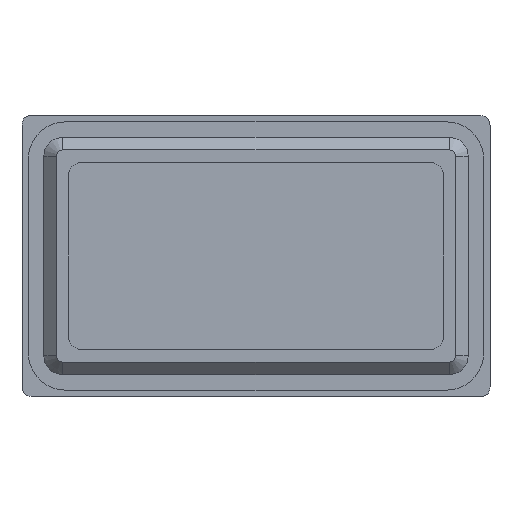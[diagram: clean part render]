
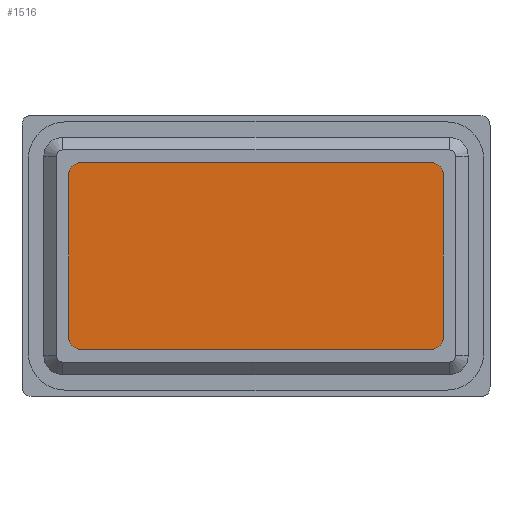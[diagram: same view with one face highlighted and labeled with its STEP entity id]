
A CAD part, front view. The second image highlights one B-rep face of the part: STEP entity #1516.
In plain terms, the highlighted planar face has unit normal (0, -1, 0).
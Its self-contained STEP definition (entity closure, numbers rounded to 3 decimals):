
#122=CIRCLE('',#1662,2.);
#123=CIRCLE('',#1665,2.);
#124=CIRCLE('',#1668,2.);
#125=CIRCLE('',#1671,2.);
#210=FACE_OUTER_BOUND('',#299,.T.);
#299=EDGE_LOOP('',(#1344,#1345,#1346,#1347,#1348,#1349,#1350,#1351));
#441=LINE('',#2553,#586);
#444=LINE('',#2561,#589);
#447=LINE('',#2569,#592);
#449=LINE('',#2575,#594);
#586=VECTOR('',#2100,56.);
#589=VECTOR('',#2109,26.);
#592=VECTOR('',#2118,26.);
#594=VECTOR('',#2126,56.);
#729=VERTEX_POINT('',#2545);
#730=VERTEX_POINT('',#2546);
#731=VERTEX_POINT('',#2551);
#732=VERTEX_POINT('',#2555);
#733=VERTEX_POINT('',#2559);
#734=VERTEX_POINT('',#2563);
#735=VERTEX_POINT('',#2564);
#736=VERTEX_POINT('',#2571);
#938=EDGE_CURVE('',#729,#730,#122,.T.);
#942=EDGE_CURVE('',#730,#731,#441,.T.);
#943=EDGE_CURVE('',#731,#732,#123,.T.);
#946=EDGE_CURVE('',#732,#733,#444,.T.);
#947=EDGE_CURVE('',#734,#735,#124,.T.);
#950=EDGE_CURVE('',#735,#729,#447,.T.);
#951=EDGE_CURVE('',#733,#736,#125,.T.);
#953=EDGE_CURVE('',#736,#734,#449,.T.);
#1344=ORIENTED_EDGE('',*,*,#938,.T.);
#1345=ORIENTED_EDGE('',*,*,#942,.T.);
#1346=ORIENTED_EDGE('',*,*,#943,.T.);
#1347=ORIENTED_EDGE('',*,*,#946,.T.);
#1348=ORIENTED_EDGE('',*,*,#951,.T.);
#1349=ORIENTED_EDGE('',*,*,#953,.T.);
#1350=ORIENTED_EDGE('',*,*,#947,.T.);
#1351=ORIENTED_EDGE('',*,*,#950,.T.);
#1432=PLANE('',#1674);
#1516=ADVANCED_FACE('',(#210),#1432,.F.);
#1662=AXIS2_PLACEMENT_3D('',#2547,#2093,#2094);
#1665=AXIS2_PLACEMENT_3D('',#2556,#2103,#2104);
#1668=AXIS2_PLACEMENT_3D('',#2565,#2112,#2113);
#1671=AXIS2_PLACEMENT_3D('',#2572,#2121,#2122);
#1674=AXIS2_PLACEMENT_3D('',#2577,#2129,#2130);
#2093=DIRECTION('center_axis',(0.,-1.,0.));
#2094=DIRECTION('ref_axis',(0.707,0.,0.707));
#2100=DIRECTION('',(-1.,0.,0.));
#2103=DIRECTION('center_axis',(0.,-1.,0.));
#2104=DIRECTION('ref_axis',(-0.707,0.,0.707));
#2109=DIRECTION('',(0.,0.,-1.));
#2112=DIRECTION('center_axis',(0.,-1.,0.));
#2113=DIRECTION('ref_axis',(0.707,0.,-0.707));
#2118=DIRECTION('',(0.,0.,1.));
#2121=DIRECTION('center_axis',(0.,-1.,0.));
#2122=DIRECTION('ref_axis',(-0.707,0.,-0.707));
#2126=DIRECTION('',(1.,0.,0.));
#2129=DIRECTION('center_axis',(0.,1.,0.));
#2130=DIRECTION('ref_axis',(0.,0.,1.));
#2545=CARTESIAN_POINT('',(30.,0.,13.));
#2546=CARTESIAN_POINT('',(28.,0.,15.));
#2547=CARTESIAN_POINT('Origin',(28.,0.,13.));
#2551=CARTESIAN_POINT('',(-28.,0.,15.));
#2553=CARTESIAN_POINT('',(-15.,0.,15.));
#2555=CARTESIAN_POINT('',(-30.,0.,13.));
#2556=CARTESIAN_POINT('Origin',(-28.,0.,13.));
#2559=CARTESIAN_POINT('',(-30.,0.,-13.));
#2561=CARTESIAN_POINT('',(-30.,0.,-7.5));
#2563=CARTESIAN_POINT('',(28.,0.,-15.));
#2564=CARTESIAN_POINT('',(30.,0.,-13.));
#2565=CARTESIAN_POINT('Origin',(28.,0.,-13.));
#2569=CARTESIAN_POINT('',(30.,0.,7.5));
#2571=CARTESIAN_POINT('',(-28.,0.,-15.));
#2572=CARTESIAN_POINT('Origin',(-28.,0.,-13.));
#2575=CARTESIAN_POINT('',(15.,0.,-15.));
#2577=CARTESIAN_POINT('Origin',(0.,0.,0.));
